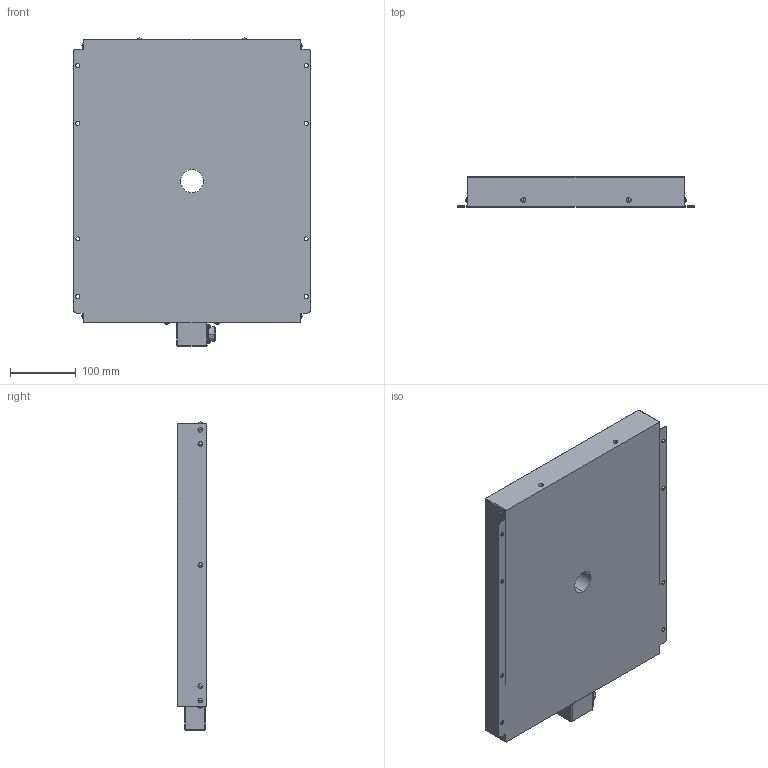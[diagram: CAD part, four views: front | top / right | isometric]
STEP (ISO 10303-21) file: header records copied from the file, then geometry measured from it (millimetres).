
FILE_DESCRIPTION (( 'STEP AP214' ), '1' );
FILE_NAME ('HDSBPA-400x300_-24-35D.STEP', '2023-06-01T06:48:46', ( '' ), ( '' ), 'SwSTEP 2.0', 'SolidWorks 2022', '' );
FILE_SCHEMA (( 'AUTOMOTIVE_DESIGN' ));
Length unit declared in the file: millimetre
Products named in the file (1): HDSBPA-400x300_-24-35D
Bounding box: 360 x 45 x 466.9 mm (x, y, z)
Volume: 6289934.1 mm3; surface area: 386863.6 mm2
Topology: 1 solids, 1 shells, 184 faces, 496 edges, 288 vertices
Faces by surface type: cylinder 90, sphere 52, plane 32, torus 8, cone 2
Entity records: 5344 total; most frequent: DIRECTION 1048, CARTESIAN_POINT 873, ORIENTED_EDGE 844, AXIS2_PLACEMENT_3D 441, EDGE_CURVE 422, VERTEX_POINT 266, CIRCLE 256, EDGE_LOOP 228
